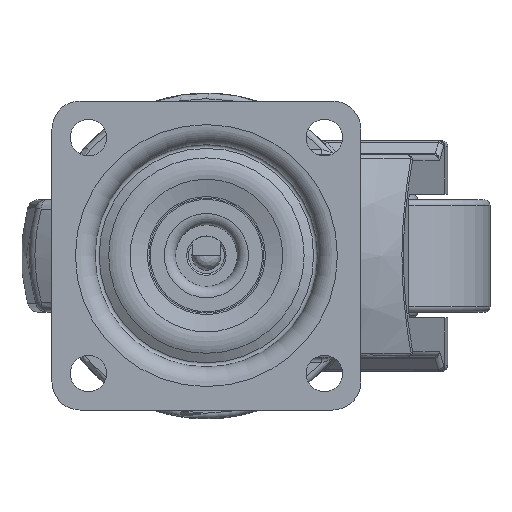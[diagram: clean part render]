
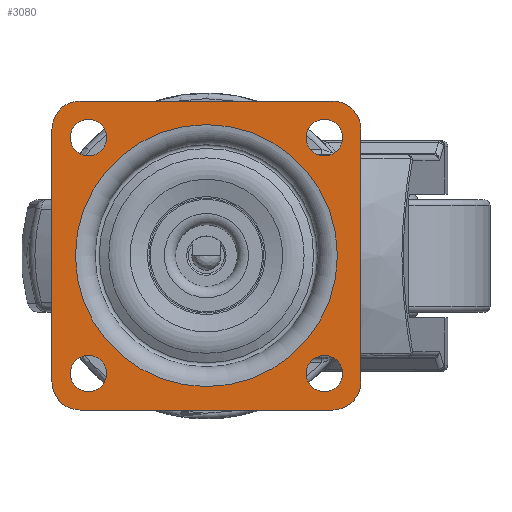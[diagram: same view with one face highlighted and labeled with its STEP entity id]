
A CAD part, top view. The second image highlights one B-rep face of the part: STEP entity #3080.
In plain terms, the highlighted planar face has unit normal (0, 0, 1).
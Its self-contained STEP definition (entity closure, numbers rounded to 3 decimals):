
#952=PLANE('',#22985);
#3080=ADVANCED_FACE('',(#5109,#5110,#5111,#5112,#5113,#5114),#952,.T.);
#5109=FACE_BOUND('',#6161,.T.);
#5110=FACE_BOUND('',#6162,.T.);
#5111=FACE_BOUND('',#6163,.T.);
#5112=FACE_BOUND('',#6164,.T.);
#5113=FACE_BOUND('',#6165,.T.);
#5114=FACE_BOUND('',#6166,.T.);
#6161=EDGE_LOOP('',(#11964,#11965,#11966,#11967,#11968,#11969,#11970,#11971));
#6162=EDGE_LOOP('',(#11972));
#6163=EDGE_LOOP('',(#11973));
#6164=EDGE_LOOP('',(#11974));
#6165=EDGE_LOOP('',(#11975));
#6166=EDGE_LOOP('',(#11976));
#7230=CIRCLE('',#22934,23.328);
#7234=CIRCLE('',#22941,3.25);
#7236=CIRCLE('',#22944,3.25);
#7238=CIRCLE('',#22947,3.25);
#7240=CIRCLE('',#22950,3.25);
#7249=CIRCLE('',#22970,5.);
#7251=CIRCLE('',#22974,5.);
#7253=CIRCLE('',#22978,5.);
#7255=CIRCLE('',#22982,5.);
#11964=ORIENTED_EDGE('',*,*,#18474,.T.);
#11965=ORIENTED_EDGE('',*,*,#18453,.T.);
#11966=ORIENTED_EDGE('',*,*,#18457,.T.);
#11967=ORIENTED_EDGE('',*,*,#18460,.T.);
#11968=ORIENTED_EDGE('',*,*,#18463,.T.);
#11969=ORIENTED_EDGE('',*,*,#18466,.T.);
#11970=ORIENTED_EDGE('',*,*,#18469,.T.);
#11971=ORIENTED_EDGE('',*,*,#18472,.T.);
#11972=ORIENTED_EDGE('',*,*,#18437,.T.);
#11973=ORIENTED_EDGE('',*,*,#18439,.T.);
#11974=ORIENTED_EDGE('',*,*,#18433,.T.);
#11975=ORIENTED_EDGE('',*,*,#18441,.T.);
#11976=ORIENTED_EDGE('',*,*,#18443,.T.);
#15546=VERTEX_POINT('',#62801);
#15550=VERTEX_POINT('',#62812);
#15552=VERTEX_POINT('',#62817);
#15554=VERTEX_POINT('',#62822);
#15556=VERTEX_POINT('',#62827);
#15566=VERTEX_POINT('',#62856);
#15567=VERTEX_POINT('',#62858);
#15569=VERTEX_POINT('',#62864);
#15571=VERTEX_POINT('',#62870);
#15573=VERTEX_POINT('',#62876);
#15575=VERTEX_POINT('',#62882);
#15577=VERTEX_POINT('',#62888);
#15579=VERTEX_POINT('',#62894);
#18433=EDGE_CURVE('',#15546,#15546,#7230,.T.);
#18437=EDGE_CURVE('',#15550,#15550,#7234,.T.);
#18439=EDGE_CURVE('',#15552,#15552,#7236,.T.);
#18441=EDGE_CURVE('',#15554,#15554,#7238,.T.);
#18443=EDGE_CURVE('',#15556,#15556,#7240,.T.);
#18453=EDGE_CURVE('',#15567,#15566,#20274,.T.);
#18457=EDGE_CURVE('',#15566,#15569,#7249,.T.);
#18460=EDGE_CURVE('',#15569,#15571,#20279,.T.);
#18463=EDGE_CURVE('',#15571,#15573,#7251,.T.);
#18466=EDGE_CURVE('',#15573,#15575,#20283,.T.);
#18469=EDGE_CURVE('',#15575,#15577,#7253,.T.);
#18472=EDGE_CURVE('',#15577,#15579,#20287,.T.);
#18474=EDGE_CURVE('',#15579,#15567,#7255,.T.);
#20274=LINE('',#62857,#21353);
#20279=LINE('',#62871,#21358);
#20283=LINE('',#62883,#21362);
#20287=LINE('',#62895,#21366);
#21353=VECTOR('',#26910,1.);
#21358=VECTOR('',#26923,1.);
#21362=VECTOR('',#26935,1.);
#21366=VECTOR('',#26947,1.);
#22934=AXIS2_PLACEMENT_3D('',#62800,#26840,#26841);
#22941=AXIS2_PLACEMENT_3D('',#62811,#26854,#26855);
#22944=AXIS2_PLACEMENT_3D('',#62816,#26860,#26861);
#22947=AXIS2_PLACEMENT_3D('',#62821,#26866,#26867);
#22950=AXIS2_PLACEMENT_3D('',#62826,#26872,#26873);
#22970=AXIS2_PLACEMENT_3D('',#62865,#26917,#26918);
#22974=AXIS2_PLACEMENT_3D('',#62877,#26929,#26930);
#22978=AXIS2_PLACEMENT_3D('',#62889,#26941,#26942);
#22982=AXIS2_PLACEMENT_3D('',#62898,#26952,#26953);
#22985=AXIS2_PLACEMENT_3D('',#62901,#26958,#26959);
#26840=DIRECTION('',(0.,0.,-1.));
#26841=DIRECTION('',(-1.,0.,0.));
#26854=DIRECTION('',(0.,0.,-1.));
#26855=DIRECTION('',(-1.,0.,0.));
#26860=DIRECTION('',(0.,0.,-1.));
#26861=DIRECTION('',(-1.,0.,0.));
#26866=DIRECTION('',(0.,0.,-1.));
#26867=DIRECTION('',(-1.,0.,0.));
#26872=DIRECTION('',(0.,0.,-1.));
#26873=DIRECTION('',(-1.,0.,0.));
#26910=DIRECTION('',(1.,0.,0.));
#26917=DIRECTION('',(0.,0.,1.));
#26918=DIRECTION('',(-1.,0.,0.));
#26923=DIRECTION('',(0.,1.,0.));
#26929=DIRECTION('',(0.,0.,1.));
#26930=DIRECTION('',(-1.,0.,0.));
#26935=DIRECTION('',(-1.,0.,0.));
#26941=DIRECTION('',(0.,0.,1.));
#26942=DIRECTION('',(-1.,0.,0.));
#26947=DIRECTION('',(0.,-1.,0.));
#26952=DIRECTION('',(0.,0.,1.));
#26953=DIRECTION('',(-1.,0.,0.));
#26958=DIRECTION('',(0.,0.,1.));
#26959=DIRECTION('',(-1.,0.,0.));
#62800=CARTESIAN_POINT('',(0.,0.,0.));
#62801=CARTESIAN_POINT('',(-23.328,0.,0.));
#62811=CARTESIAN_POINT('',(-21.,-21.,0.));
#62812=CARTESIAN_POINT('',(-17.75,-21.,0.));
#62816=CARTESIAN_POINT('',(21.,-21.,0.));
#62817=CARTESIAN_POINT('',(24.25,-21.,0.));
#62821=CARTESIAN_POINT('',(-21.,21.,0.));
#62822=CARTESIAN_POINT('',(-17.75,21.,0.));
#62826=CARTESIAN_POINT('',(21.,21.,0.));
#62827=CARTESIAN_POINT('',(24.25,21.,0.));
#62856=CARTESIAN_POINT('',(22.5,-27.5,0.));
#62857=CARTESIAN_POINT('',(-22.5,-27.5,0.));
#62858=CARTESIAN_POINT('',(-22.5,-27.5,0.));
#62864=CARTESIAN_POINT('',(27.5,-22.5,0.));
#62865=CARTESIAN_POINT('',(22.5,-22.5,0.));
#62870=CARTESIAN_POINT('',(27.5,22.5,0.));
#62871=CARTESIAN_POINT('',(27.5,-22.5,0.));
#62876=CARTESIAN_POINT('',(22.5,27.5,0.));
#62877=CARTESIAN_POINT('',(22.5,22.5,0.));
#62882=CARTESIAN_POINT('',(-22.5,27.5,0.));
#62883=CARTESIAN_POINT('',(22.5,27.5,0.));
#62888=CARTESIAN_POINT('',(-27.5,22.5,0.));
#62889=CARTESIAN_POINT('',(-22.5,22.5,0.));
#62894=CARTESIAN_POINT('',(-27.5,-22.5,0.));
#62895=CARTESIAN_POINT('',(-27.5,22.5,0.));
#62898=CARTESIAN_POINT('',(-22.5,-22.5,0.));
#62901=CARTESIAN_POINT('',(-0.762,0.,0.));
